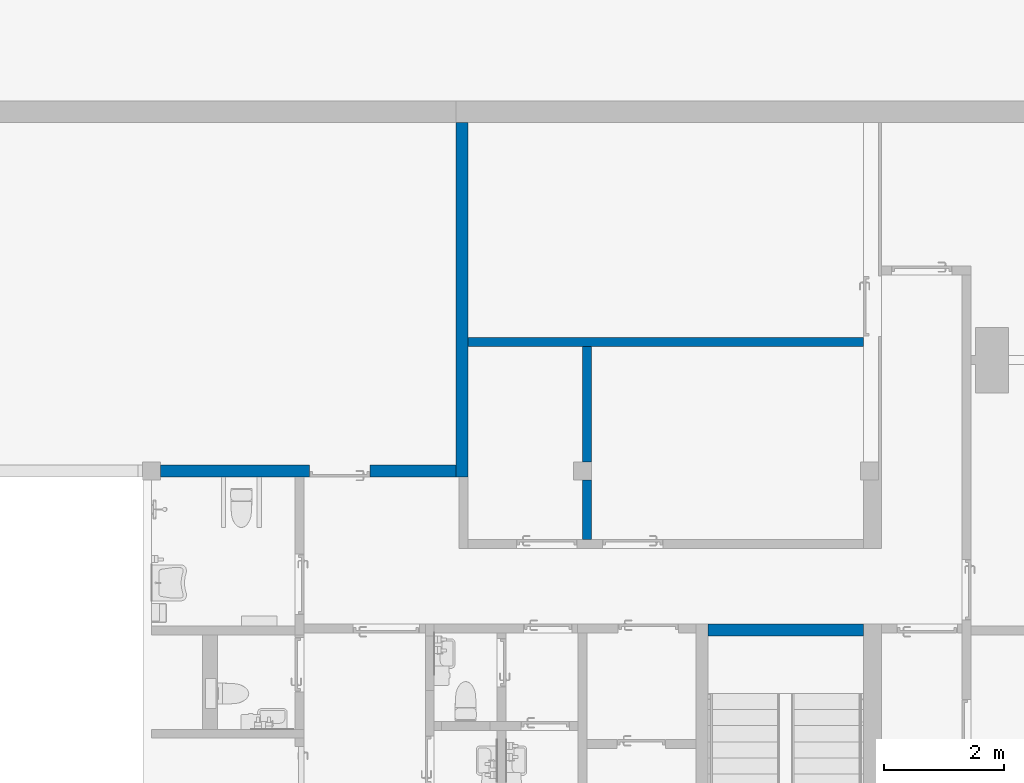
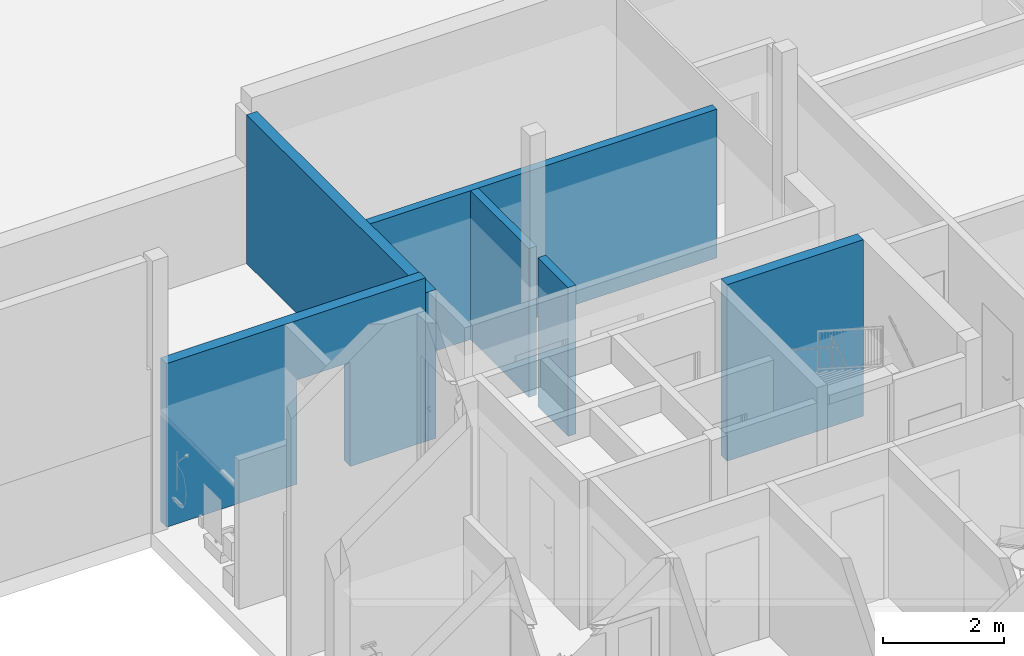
# One storey, part 31 of 58: 5 walls, 2 openings.
"""IFC2X3 building model written with IfcOpenShell, lengths in millimetres."""

from ifc_helpers import new_model, entity, si_unit, converted_unit, derived_unit, direction, frame, frame_2d, origin, place, context, subcontext, project, spatial, polyline, rectangle, extrude, clip, bounded_halfspace, material, layer, layer_set, layer_usage, type_object, element, save


model = new_model("IFC2X3")

# Units and contexts
model_context = context("Model", 3, precision=0.01, world=origin(), true_north=direction((0.7716245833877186, 0.6360782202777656)))
body_context = subcontext(model_context, "Body", "Model", "MODEL_VIEW")
ifc_project = project(units=[si_unit("LENGTHUNIT", "METRE", prefix="MILLI"), si_unit("AREAUNIT", "SQUARE_METRE"), converted_unit("PLANEANGLEUNIT", "DEGREE", entity("IfcPlaneAngleMeasure", 0.017453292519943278), si_unit("PLANEANGLEUNIT", "RADIAN"), dimensions=[0, 0, 0, 0, 0, 0, 0]), derived_unit("THERMALTRANSMITTANCEUNIT", [(si_unit("MASSUNIT", "GRAM", prefix="KILO"), 1), (si_unit("THERMODYNAMICTEMPERATUREUNIT", "KELVIN"), -1), (si_unit("TIMEUNIT", "SECOND"), -3)])], contexts=[model_context])

# Site, building, storey
site_placement = place(None, origin())
site = spatial("IfcSite", under=ifc_project, at=site_placement, Name="Default", CompositionType="ELEMENT")
building_placement = place(site_placement, origin())
building = spatial("IfcBuilding", under=site, at=building_placement, CompositionType="ELEMENT")
storey_placement = place(building_placement, frame((0.0, 0.0, 31140.0)))
storey = spatial("IfcBuildingStorey", under=building, at=storey_placement, Name="PLAN U1", CompositionType="ELEMENT", Elevation=31140.000000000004)

# Wall
ifc_material = material(Name="Eksist. vegg")
ifc_layer_1 = layer(ifc_material, 150.0)
ifc_layer_set_1 = layer_set([ifc_layer_1], Name="Basic Wall:240 Eksist. Innervegg 150 mm")
ifc_layer_usage_1 = layer_usage(ifc_layer_set_1, "AXIS2", "NEGATIVE", 75.0)
wall_type_1 = type_object("IfcWallType", Name="Basic Wall:240 Eksist. Innervegg 150 mm", PredefinedType="STANDARD", material=ifc_layer_set_1)
wall_1_placement = place(storey_placement, frame((264007.9244464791, 67465.2555500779, 0.0)))
element("IfcWallStandardCase", 1, at=wall_1_placement, inside=storey, type_object=wall_type_1, material=ifc_layer_usage_1, Name="Basic Wall:240 Eksist. Innervegg 150 mm", ObjectType="Basic Wall:240 Eksist. Innervegg 150 mm", context=body_context, shape_type="Clipping", body=[
    clip(extrude(rectangle(XDim=6609.999999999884, YDim=150.00000000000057, at=frame_2d((3304.999999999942, -7.389644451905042e-13), x_axis=(-1.0, 0.0))), origin(), (0.0, 0.0, 1.0), 2999.9999999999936), bounded_halfspace(frame((0.0, -75.0, 3000.0), z_axis=(0.0, 0.0, -1.0), x_axis=(0.0, 1.0, 0.0)), True, frame((0.0, -75.0, 3000.0)), polyline([(0.0, 0.0), (1910.0, 0.0), (2060.0, 0.0), (6610.0, 0.0), (6610.0, 150.0), (0.0, 150.0), (0.0, 0.0)]))),
])

# Wall, opening
ifc_layer_usage_2 = layer_usage(ifc_layer_set_1, "AXIS2", "NEGATIVE", 75.0)
wall_2_placement = place(storey_placement, frame((265992.924446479, 64165.255550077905, 0.0), z_axis=(0.0, 0.0, 1.0), x_axis=(0.0, 1.0, 0.0)))
wall_2 = element("IfcWallStandardCase", 2, at=wall_2_placement, inside=storey, type_object=wall_type_1, material=ifc_layer_usage_2, Name="Basic Wall:240 Eksist. Innervegg 150 mm", ObjectType="Basic Wall:240 Eksist. Innervegg 150 mm", context=body_context, shape_type="SweptSolid", body=[
    extrude(rectangle(XDim=3224.999999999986, YDim=150.00000000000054, at=frame_2d((1612.499999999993, 0.0), x_axis=(-1.0, 0.0))), origin(), (0.0, 0.0, 1.0), 2999.9999999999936),
])
opening_1_placement = place(storey_placement, frame((265992.924446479, 64165.255550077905, 0.0), z_axis=(0.0, 0.0, 1.0), x_axis=(0.0, 1.0, 0.0)))
element("IfcOpeningElement", 3, at=opening_1_placement, cuts=wall_2, Name="Basic Wall:240 Eksist. Innervegg 150 mm:1", ObjectType="Opening", context=body_context, shape_type="SweptSolid", body=[
    extrude(rectangle(XDim=2999.999999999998, YDim=150.00000000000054, at=frame_2d((2.1600499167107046e-12, 0.0), x_axis=(1.0, 0.0))), frame((1000.0, 0.0, 1500.0), z_axis=(1.0, 0.0, 0.0), x_axis=(0.0, 0.0, -1.0)), (0.0, 0.0, 1.0), 300.0000000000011),
])

# Walls
ifc_layer_2 = layer(ifc_material, 200.0)
ifc_layer_set_2 = layer_set([ifc_layer_2], Name="Basic Wall:240 Eksist. innervegg 200 mm")
ifc_layer_usage_3 = layer_usage(ifc_layer_set_2, "AXIS2", "NEGATIVE", 100.0)
wall_type_2 = type_object("IfcWallType", Name="Basic Wall:240 Eksist. innervegg 200 mm", PredefinedType="STANDARD", material=ifc_layer_set_2)
wall_3_placement = place(storey_placement, frame((268017.924446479, 62654.50163955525, -257.68567719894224)))
element("IfcWallStandardCase", 4, at=wall_3_placement, inside=storey, type_object=wall_type_2, material=ifc_layer_usage_3, Name="Basic Wall:240 Eksist. innervegg 200 mm", ObjectType="Basic Wall:240 Eksist. innervegg 200 mm", context=body_context, shape_type="SweptSolid", body=[
    extrude(rectangle(XDim=2599.9999999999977, YDim=200.0000000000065, at=frame_2d((1299.9999999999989, -3.836930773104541e-13), x_axis=(-1.0, 0.0))), origin(), (0.0, 0.0, 1.0), 3557.6856771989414),
])
ifc_layer_usage_4 = layer_usage(ifc_layer_set_2, "AXIS2", "NEGATIVE", 100.0)
wall_4_placement = place(storey_placement, frame((263907.92444647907, 71135.25555007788, 0.0), z_axis=(0.0, 0.0, 1.0), x_axis=(0.0, -1.0, 0.0)))
element("IfcWallStandardCase", 5, at=wall_4_placement, inside=storey, type_object=wall_type_2, material=ifc_layer_usage_4, Name="Basic Wall:240 Eksist. innervegg 200 mm", ObjectType="Basic Wall:240 Eksist. innervegg 200 mm", context=body_context, shape_type="SweptSolid", body=[
    extrude(rectangle(XDim=5919.999999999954, YDim=200.00000000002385, at=frame_2d((2959.999999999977, 0.0), x_axis=(-1.0, 0.0))), origin(), (0.0, 0.0, 1.0), 2999.9999999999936),
])

# Wall, opening
ifc_layer_usage_5 = layer_usage(ifc_layer_set_2, "AXIS2", "NEGATIVE", 100.0)
wall_5_placement = place(storey_placement, frame((258867.924446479, 65315.25555007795, 0.0)))
wall_5 = element("IfcWallStandardCase", 6, at=wall_5_placement, inside=storey, type_object=wall_type_2, material=ifc_layer_usage_5, Name="Basic Wall:240 Eksist. innervegg 200 mm", ObjectType="Basic Wall:240 Eksist. innervegg 200 mm", context=body_context, shape_type="Clipping", body=[
    clip(extrude(rectangle(XDim=4940.000000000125, YDim=200.0000000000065, at=frame_2d((2470.0000000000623, 2.1316282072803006e-13), x_axis=(-1.0, 0.0))), origin(), (0.0, 0.0, 1.0), 3299.999999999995), bounded_halfspace(frame((0.0, -100.0, 0.0), z_axis=(1.0, 0.0, 0.0), x_axis=(0.0, 0.0, -1.0)), True, frame((0.0, -100.0, 0.0), z_axis=(1.0, 0.0, 0.0), x_axis=(0.0, 0.0, -1.0)), polyline([(0.0, 0.0), (0.0, 60960.0), (-1005840.0, 60960.0), (-1005840.0, 0.0), (0.0, 0.0)]))),
])
opening_2_placement = place(wall_5_placement, frame((3500.0, 100.0, 0.0)))
element("IfcOpeningElement", 7, at=opening_2_placement, cuts=wall_5, Name="Enfløyet:2441 Innvendig 10x21M:1", ObjectType="Opening", context=body_context, shape_type="SweptSolid", body=[
    extrude(rectangle(XDim=2100.0, YDim=1009.9999999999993, at=frame_2d((1049.9999999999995, 504.99999999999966), x_axis=(1.0, 0.0))), frame((0.0, 0.0, 0.0), z_axis=(0.0, -1.0, 0.0), x_axis=(0.0, 0.0, 1.0)), (0.0, 0.0, 1.0), 200.0),
])

save(model, "model.ifc")
